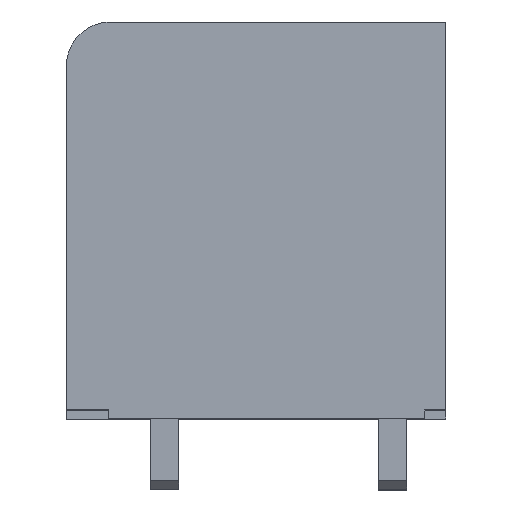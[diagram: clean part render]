
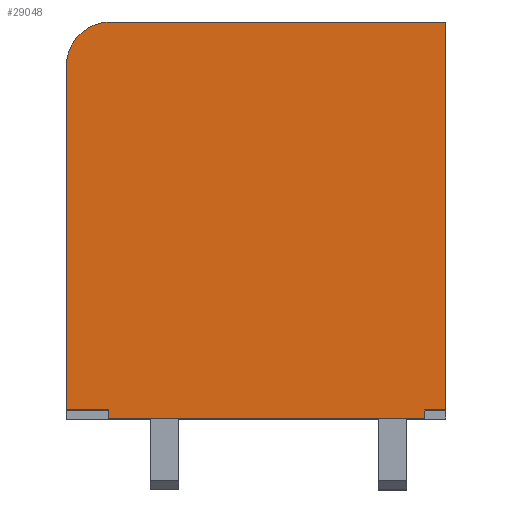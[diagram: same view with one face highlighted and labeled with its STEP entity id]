
A CAD part, top view. The second image highlights one B-rep face of the part: STEP entity #29048.
In plain terms, the highlighted planar face has unit normal (0, 0, 1).
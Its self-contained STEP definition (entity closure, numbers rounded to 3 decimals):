
#175=DIRECTION('',(0.,1.,0.));
#176=VECTOR('',#175,19.6);
#177=CARTESIAN_POINT('',(0.,0.5,-25.4));
#178=LINE('',#177,#176);
#179=DIRECTION('',(-1.,0.,0.));
#180=VECTOR('',#179,2.4);
#181=CARTESIAN_POINT('',(2.4,0.5,-25.4));
#182=LINE('',#181,#180);
#187=DIRECTION('',(0.,1.,0.));
#188=VECTOR('',#187,22.1);
#189=CARTESIAN_POINT('',(21.6,0.5,-25.4));
#190=LINE('',#189,#188);
#191=CARTESIAN_POINT('',(2.5,20.1,-25.4));
#192=DIRECTION('',(0.,0.,1.));
#193=DIRECTION('',(0.,1.,0.));
#194=AXIS2_PLACEMENT_3D('',#191,#192,#193);
#196=DIRECTION('',(-1.,0.,0.));
#197=VECTOR('',#196,19.1);
#198=CARTESIAN_POINT('',(21.6,22.6,-25.4));
#199=LINE('',#198,#197);
#240=DIRECTION('',(-1.,0.,0.));
#241=VECTOR('',#240,1.2);
#242=CARTESIAN_POINT('',(21.6,0.5,-25.4));
#243=LINE('',#242,#241);
#23796=DIRECTION('',(0.,-1.,0.));
#23797=VECTOR('',#23796,0.5);
#23798=CARTESIAN_POINT('',(20.4,0.5,-25.4));
#23799=LINE('',#23798,#23797);
#23812=DIRECTION('',(-1.,0.,0.));
#23813=VECTOR('',#23812,18.);
#23814=CARTESIAN_POINT('',(20.4,0.,-25.4));
#23815=LINE('',#23814,#23813);
#23820=DIRECTION('',(0.,1.,0.));
#23821=VECTOR('',#23820,0.5);
#23822=CARTESIAN_POINT('',(2.4,0.,-25.4));
#23823=LINE('',#23822,#23821);
#26728=CARTESIAN_POINT('',(21.6,0.5,-25.4));
#26729=VERTEX_POINT('',#26728);
#26730=CARTESIAN_POINT('',(21.6,22.6,-25.4));
#26731=VERTEX_POINT('',#26730);
#26732=CARTESIAN_POINT('',(2.5,22.6,-25.4));
#26733=VERTEX_POINT('',#26732);
#26742=CARTESIAN_POINT('',(20.4,0.5,-25.4));
#26743=VERTEX_POINT('',#26742);
#26744=CARTESIAN_POINT('',(20.4,0.,-25.4));
#26745=VERTEX_POINT('',#26744);
#26746=CARTESIAN_POINT('',(2.4,0.,-25.4));
#26747=VERTEX_POINT('',#26746);
#26748=CARTESIAN_POINT('',(2.4,0.5,-25.4));
#26749=VERTEX_POINT('',#26748);
#26750=CARTESIAN_POINT('',(0.,0.5,-25.4));
#26751=VERTEX_POINT('',#26750);
#26752=CARTESIAN_POINT('',(0.,20.1,-25.4));
#26753=VERTEX_POINT('',#26752);
#29025=CARTESIAN_POINT('',(21.6,0.,-25.4));
#29026=DIRECTION('',(0.,0.,1.));
#29027=DIRECTION('',(1.,0.,0.));
#29028=AXIS2_PLACEMENT_3D('',#29025,#29026,#29027);
#29029=PLANE('',#29028);
#29031=ORIENTED_EDGE('',*,*,#29030,.F.);
#29033=ORIENTED_EDGE('',*,*,#29032,.T.);
#29035=ORIENTED_EDGE('',*,*,#29034,.T.);
#29037=ORIENTED_EDGE('',*,*,#29036,.T.);
#29039=ORIENTED_EDGE('',*,*,#29038,.T.);
#29040=ORIENTED_EDGE('',*,*,#29016,.T.);
#29041=ORIENTED_EDGE('',*,*,#29006,.T.);
#29043=ORIENTED_EDGE('',*,*,#29042,.F.);
#29045=ORIENTED_EDGE('',*,*,#29044,.F.);
#29046=EDGE_LOOP('',(#29031,#29033,#29035,#29037,#29039,#29040,#29041,#29043,
#29045));
#29047=FACE_OUTER_BOUND('',#29046,.F.);
#29048=ADVANCED_FACE('',(#29047),#29029,.T.);
#195=CIRCLE('',#194,2.5);
#29006=EDGE_CURVE('',#26751,#26753,#178,.T.);
#29016=EDGE_CURVE('',#26749,#26751,#182,.T.);
#29030=EDGE_CURVE('',#26729,#26731,#190,.T.);
#29032=EDGE_CURVE('',#26729,#26743,#243,.T.);
#29034=EDGE_CURVE('',#26743,#26745,#23799,.T.);
#29036=EDGE_CURVE('',#26745,#26747,#23815,.T.);
#29038=EDGE_CURVE('',#26747,#26749,#23823,.T.);
#29042=EDGE_CURVE('',#26733,#26753,#195,.T.);
#29044=EDGE_CURVE('',#26731,#26733,#199,.T.);
